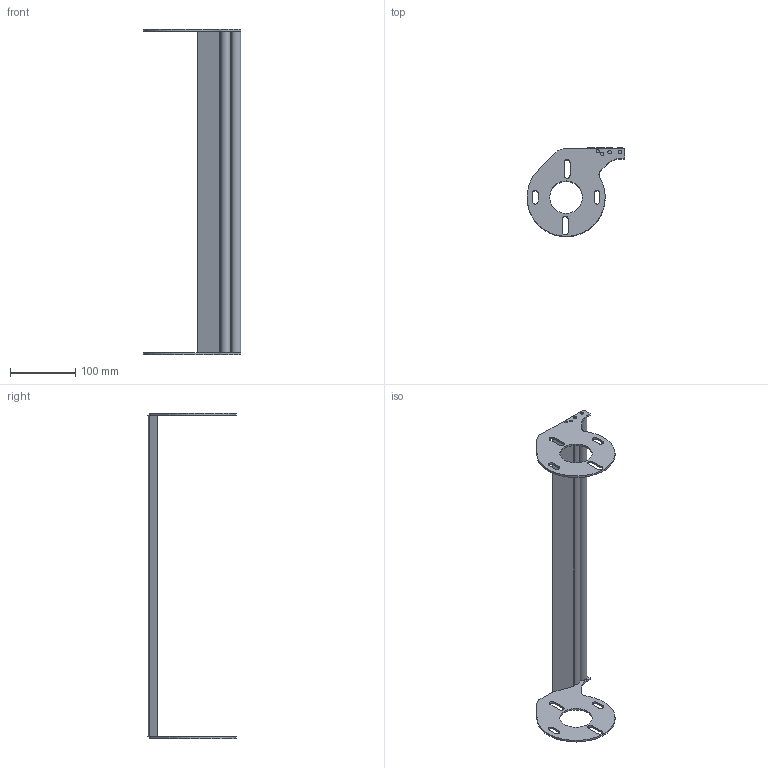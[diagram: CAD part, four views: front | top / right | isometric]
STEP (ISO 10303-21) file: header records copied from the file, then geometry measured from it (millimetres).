
FILE_DESCRIPTION (( 'STEP AP214' ), '1' );
FILE_NAME ('F2 1800 TG1R.step', '2017-04-05T07:32:05', ( '' ), ( '' ), 'SwSTEP 2.0', 'SolidWorks 2015', '' );
FILE_SCHEMA (( 'AUTOMOTIVE_DESIGN' ));
Length unit declared in the file: millimetre
Products named in the file (1): F2 1800 TG1R
Bounding box: 150.4 x 136.54 x 500 mm (x, y, z)
Volume: 374782.2 mm3; surface area: 137051.1 mm2
Topology: 1 solids, 1 shells, 114 faces, 312 edges, 204 vertices
Faces by surface type: plane 61, cylinder 53
Entity records: 3969 total; most frequent: DIRECTION 656, CARTESIAN_POINT 631, ORIENTED_EDGE 624, EDGE_CURVE 312, AXIS2_PLACEMENT_3D 229, VERTEX_POINT 204, LINE 198, VECTOR 198
